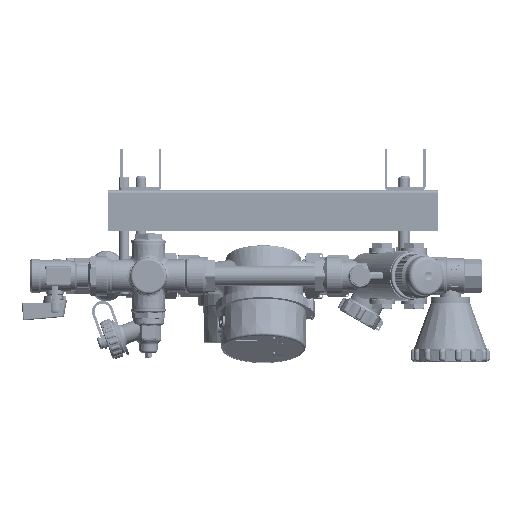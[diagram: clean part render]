
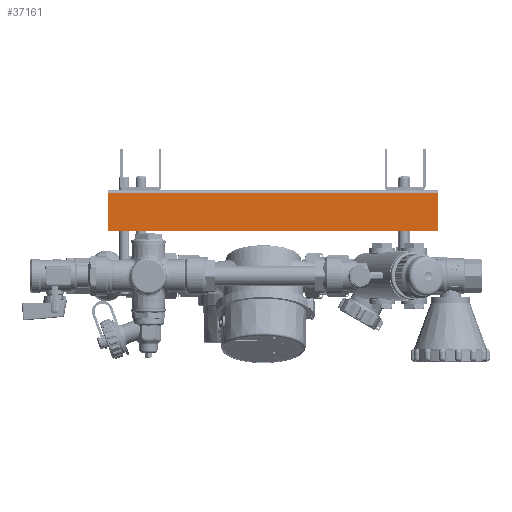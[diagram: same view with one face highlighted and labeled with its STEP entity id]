
A CAD part, left-side view. The second image highlights one B-rep face of the part: STEP entity #37161.
In plain terms, the highlighted planar face has unit normal (-1, 0, 0).
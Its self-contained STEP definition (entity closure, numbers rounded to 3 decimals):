
#37161=ADVANCED_FACE('',(#203433),#203435,.T.);
#203433=FACE_BOUND('',#203434,.T.);
#203434=EDGE_LOOP('',(#301738,#301739,#301740,#301741));
#203435=PLANE('',#203436);
#203436=AXIS2_PLACEMENT_3D('',#203437,#203438,#203439);
#203437=CARTESIAN_POINT('',(-15.5,-250.,-31.2));
#203438=DIRECTION('',(-1.,0.,0.));
#203439=DIRECTION('',(0.,0.,1.));
#301738=ORIENTED_EDGE('',*,*,#352212,.T.);
#301739=ORIENTED_EDGE('',*,*,#352235,.T.);
#301740=ORIENTED_EDGE('',*,*,#352224,.F.);
#301741=ORIENTED_EDGE('',*,*,#352238,.F.);
#352212=EDGE_CURVE('',#416269,#416267,#416270,.T.);
#352224=EDGE_CURVE('',#416288,#416290,#416291,.T.);
#352235=EDGE_CURVE('',#416267,#416290,#416304,.T.);
#352238=EDGE_CURVE('',#416269,#416288,#416307,.T.);
#416267=VERTEX_POINT('',#693568);
#416269=VERTEX_POINT('',#693573);
#416270=LINE('',#693574,#693575);
#416288=VERTEX_POINT('',#693618);
#416290=VERTEX_POINT('',#693622);
#416291=LINE('',#693623,#693624);
#416304=LINE('',#693660,#693661);
#416307=LINE('',#693669,#693670);
#693568=CARTESIAN_POINT('',(-15.5,-250.,-2.5));
#693573=CARTESIAN_POINT('',(-15.5,-250.,-31.2));
#693574=CARTESIAN_POINT('',(-15.5,-250.,-31.2));
#693575=VECTOR('',#693576,1.);
#693576=DIRECTION('',(0.,0.,1.));
#693618=CARTESIAN_POINT('',(-15.5,0.,-31.2));
#693622=CARTESIAN_POINT('',(-15.5,0.,-2.5));
#693623=CARTESIAN_POINT('',(-15.5,0.,-31.2));
#693624=VECTOR('',#693625,1.);
#693625=DIRECTION('',(0.,0.,1.));
#693660=CARTESIAN_POINT('',(-15.5,-250.,-2.5));
#693661=VECTOR('',#693662,1.);
#693662=DIRECTION('',(0.,1.,0.));
#693669=CARTESIAN_POINT('',(-15.5,-250.,-31.2));
#693670=VECTOR('',#693671,1.);
#693671=DIRECTION('',(0.,1.,0.));
